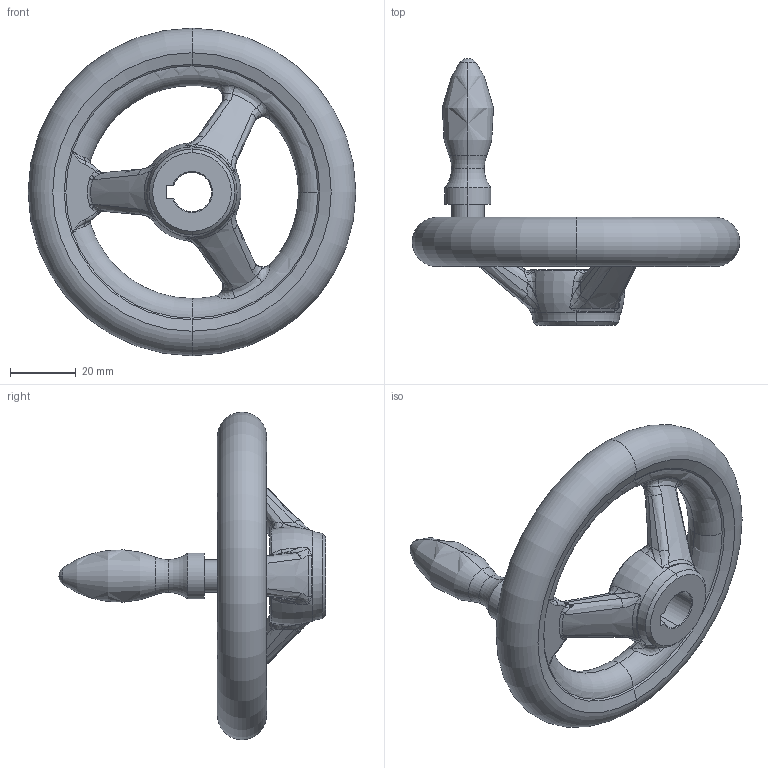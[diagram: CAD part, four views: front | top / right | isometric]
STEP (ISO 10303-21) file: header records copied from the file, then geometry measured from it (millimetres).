
FILE_DESCRIPTION (( 'STEP AP203' ), '1' );
FILE_NAME ('din950_f3_100x12.step', '2010-03-23T10:21:12', ( '_' ), ( '_' ), 'SwSTEP 2.0', 'SolidWorks 2010', '' );
FILE_SCHEMA (( 'CONFIG_CONTROL_DESIGN' ));
Length unit declared in the file: millimetre
Products named in the file (1): din950_f3_100x12
Bounding box: 100 x 81.5 x 100 mm (x, y, z)
Volume: 74080 mm3; surface area: 20281.3 mm2
Topology: 1 solids, 1 shells, 211 faces, 513 edges, 278 vertices
Faces by surface type: bspline 130, torus 27, cone 18, plane 14, cylinder 12, sphere 10
Entity records: 23397 total; most frequent: CARTESIAN_POINT 19254, ORIENTED_EDGE 982, DIRECTION 636, EDGE_CURVE 491, AXIS2_PLACEMENT_3D 300, VERTEX_POINT 278, B_SPLINE_CURVE_WITH_KNOTS 233, CIRCLE 218
